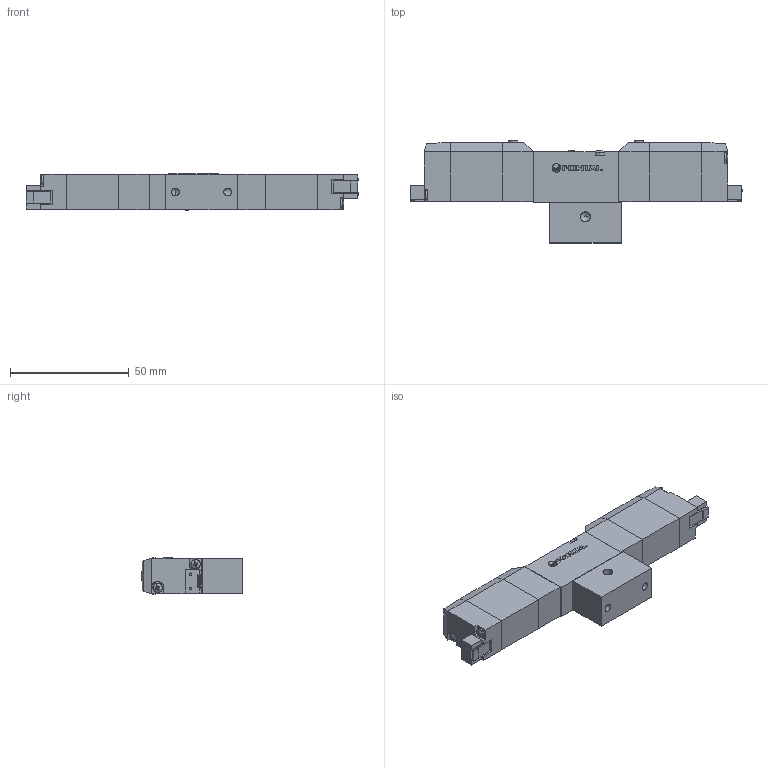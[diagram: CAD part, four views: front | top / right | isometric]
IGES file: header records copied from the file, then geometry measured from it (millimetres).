
Start section: SolidWorks IGES file using analytic representation for surfaces
Global section: file name: D:\Custom\3D繪製\PC\PC5\PCD345#-M5-#-SP-#.IGS,1; native system: 5HSolidWorks 2014; preprocessor: SolidWorks 2014; author: Chieh_Lu; date: 150729.232040; units: millimetre
Bounding box: 140 x 43 x 15.4 mm (x, y, z)
Surface area: 21729.6 mm2 (no closed solid volume)
Topology: 0 solids, 0 shells, 618 faces, 5202 edges, 5176 vertices
Faces by surface type: bspline 423, revolution 195
